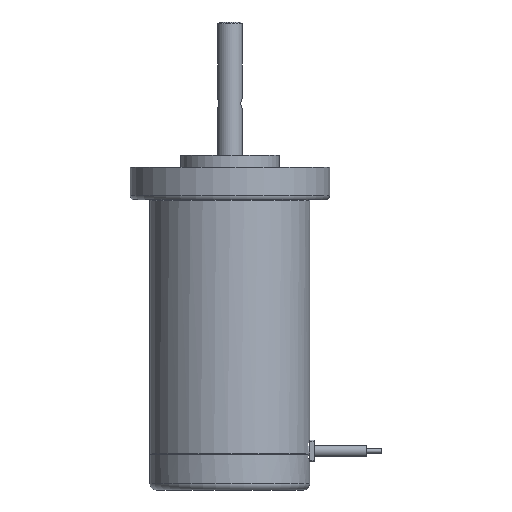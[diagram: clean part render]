
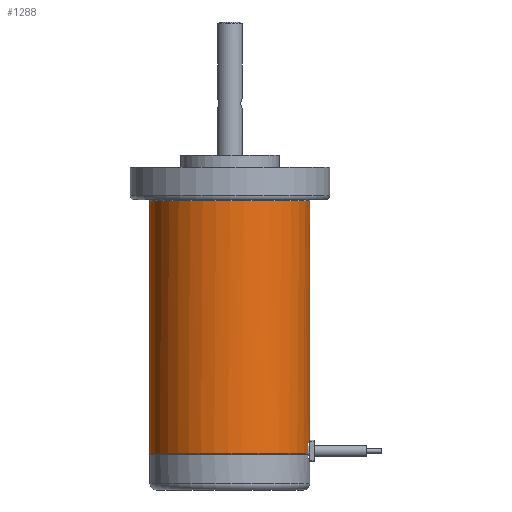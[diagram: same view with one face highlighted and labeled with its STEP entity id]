
A CAD part, front view. The second image highlights one B-rep face of the part: STEP entity #1288.
In plain terms, the highlighted cylindrical face has radius 26 mm (diameter 52 mm), a partial arc.
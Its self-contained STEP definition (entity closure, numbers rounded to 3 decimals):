
#142 = VERTEX_POINT ( 'NONE', #4776 ) ;
#245 = DIRECTION ( 'NONE',  ( 0., 0., -1. ) ) ;
#333 = EDGE_LOOP ( 'NONE', ( #5736, #4870, #4513, #2255, #5100, #5662 ) ) ;
#486 = DIRECTION ( 'NONE',  ( 1., 0., 0. ) ) ;
#692 = DIRECTION ( 'NONE',  ( -1., 0., 0. ) ) ;
#753 = VECTOR ( 'NONE', #4958, 1000. ) ;
#819 = EDGE_CURVE ( 'NONE', #5545, #1649, #2686, .T. ) ;
#911 = CARTESIAN_POINT ( 'NONE',  ( 0., 0., -0.3 ) ) ;
#1140 = CARTESIAN_POINT ( 'NONE',  ( 25.356, -5.75, -79.2 ) ) ;
#1239 = EDGE_CURVE ( 'NONE', #142, #5663, #2116, .T. ) ;
#1288 = ADVANCED_FACE ( 'NONE', ( #3197 ), #3066, .T. ) ;
#1351 = EDGE_CURVE ( 'NONE', #2574, #5663, #1837, .T. ) ;
#1532 = AXIS2_PLACEMENT_3D ( 'NONE', #2997, #245, #3447 ) ;
#1649 = VERTEX_POINT ( 'NONE', #5159 ) ;
#1820 = LINE ( 'NONE', #2198, #753 ) ;
#1834 = CARTESIAN_POINT ( 'NONE',  ( 0., 0., -82.7 ) ) ;
#1837 = LINE ( 'NONE', #4615, #3344 ) ;
#2116 = CIRCLE ( 'NONE', #3556, 26. ) ;
#2198 = CARTESIAN_POINT ( 'NONE',  ( -26., 0., 0. ) ) ;
#2255 = ORIENTED_EDGE ( 'NONE', *, *, #5464, .F. ) ;
#2290 = DIRECTION ( 'NONE',  ( 1., 0., 0. ) ) ;
#2332 = DIRECTION ( 'NONE',  ( 0., 0., 1. ) ) ;
#2419 = LINE ( 'NONE', #5091, #5009 ) ;
#2574 = VERTEX_POINT ( 'NONE', #1140 ) ;
#2686 = CIRCLE ( 'NONE', #4329, 26. ) ;
#2763 = CARTESIAN_POINT ( 'NONE',  ( 0., 0., 0. ) ) ;
#2897 = EDGE_CURVE ( 'NONE', #142, #1649, #1820, .T. ) ;
#2997 = CARTESIAN_POINT ( 'NONE',  ( 0., 0., -79.2 ) ) ;
#3066 = CYLINDRICAL_SURFACE ( 'NONE', #5694, 26. ) ;
#3197 = FACE_OUTER_BOUND ( 'NONE', #333, .T. ) ;
#3215 = DIRECTION ( 'NONE',  ( 0., 0., 1. ) ) ;
#3344 = VECTOR ( 'NONE', #4167, 1000. ) ;
#3447 = DIRECTION ( 'NONE',  ( -1., 0., 0. ) ) ;
#3527 = CARTESIAN_POINT ( 'NONE',  ( 25.356, -5.75, -82.7 ) ) ;
#3556 = AXIS2_PLACEMENT_3D ( 'NONE', #1834, #5049, #2290 ) ;
#3813 = VERTEX_POINT ( 'NONE', #5731 ) ;
#4121 = DIRECTION ( 'NONE',  ( 0., 0., -1. ) ) ;
#4167 = DIRECTION ( 'NONE',  ( 0., 0., -1. ) ) ;
#4272 = EDGE_CURVE ( 'NONE', #3813, #5545, #2419, .T. ) ;
#4329 = AXIS2_PLACEMENT_3D ( 'NONE', #911, #4121, #692 ) ;
#4513 = ORIENTED_EDGE ( 'NONE', *, *, #1351, .F. ) ;
#4615 = CARTESIAN_POINT ( 'NONE',  ( 25.356, -5.75, 0. ) ) ;
#4776 = CARTESIAN_POINT ( 'NONE',  ( -26., 0., -82.7 ) ) ;
#4870 = ORIENTED_EDGE ( 'NONE', *, *, #1239, .T. ) ;
#4958 = DIRECTION ( 'NONE',  ( 0., 0., 1. ) ) ;
#5009 = VECTOR ( 'NONE', #2332, 1000. ) ;
#5049 = DIRECTION ( 'NONE',  ( 0., 0., 1. ) ) ;
#5091 = CARTESIAN_POINT ( 'NONE',  ( 26., 0., 0. ) ) ;
#5100 = ORIENTED_EDGE ( 'NONE', *, *, #4272, .T. ) ;
#5159 = CARTESIAN_POINT ( 'NONE',  ( -26., 0., -0.3 ) ) ;
#5170 = CIRCLE ( 'NONE', #1532, 26. ) ;
#5292 = CARTESIAN_POINT ( 'NONE',  ( 26., 0., -0.3 ) ) ;
#5464 = EDGE_CURVE ( 'NONE', #3813, #2574, #5170, .T. ) ;
#5545 = VERTEX_POINT ( 'NONE', #5292 ) ;
#5662 = ORIENTED_EDGE ( 'NONE', *, *, #819, .T. ) ;
#5663 = VERTEX_POINT ( 'NONE', #3527 ) ;
#5694 = AXIS2_PLACEMENT_3D ( 'NONE', #2763, #3215, #486 ) ;
#5731 = CARTESIAN_POINT ( 'NONE',  ( 26., 0., -79.2 ) ) ;
#5736 = ORIENTED_EDGE ( 'NONE', *, *, #2897, .F. ) ;
